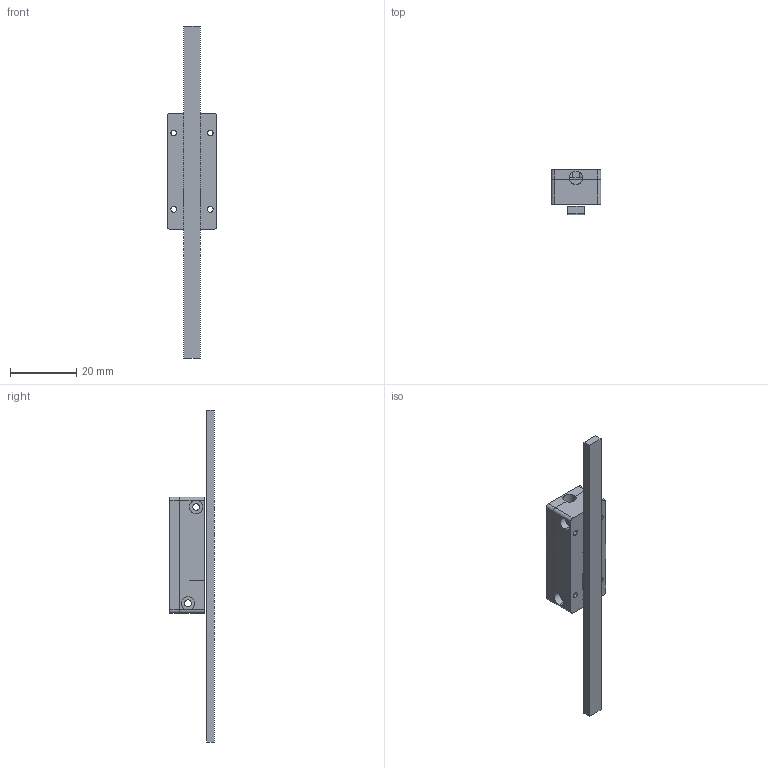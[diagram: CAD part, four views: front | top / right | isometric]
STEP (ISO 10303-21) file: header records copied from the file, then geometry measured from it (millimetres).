
FILE_DESCRIPTION (( 'STEP AP203' ), '1' );
FILE_NAME ('×°ÅäÌå70.STEP', '2024-03-28T07:55:58', ( '' ), ( '' ), 'SwSTEP 2.0', 'SolidWorks 2023', '' );
FILE_SCHEMA (( 'CONFIG_CONTROL_DESIGN' ));
Length unit declared in the file: millimetre
Products named in the file (5): 盖板.step; 底座; AMPCB20220004D光栅读数头组件; 装配体70; PZ01L 160-205光栅尺20mm
Assembly tree (4 placements, depth 2):
  装配体70
    底座
    盖板.step
    AMPCB20220004D光栅读数头组件
    PZ01L 160-205光栅尺20mm
Bounding box: 15 x 13.45 x 100 mm (x, y, z)
Volume: 4391.3 mm3; surface area: 6578.6 mm2
Topology: 54 solids, 54 shells, 3066 faces, 7758 edges, 5026 vertices
Faces by surface type: plane 2051, bspline 600, cylinder 345, sphere 56, cone 14
Entity records: 137688 total; most frequent: CARTESIAN_POINT 67333, ORIENTED_EDGE 15376, DIRECTION 12069, EDGE_CURVE 7688, LINE 5837, VECTOR 5837, VERTEX_POINT 5026, EDGE_LOOP 3404
